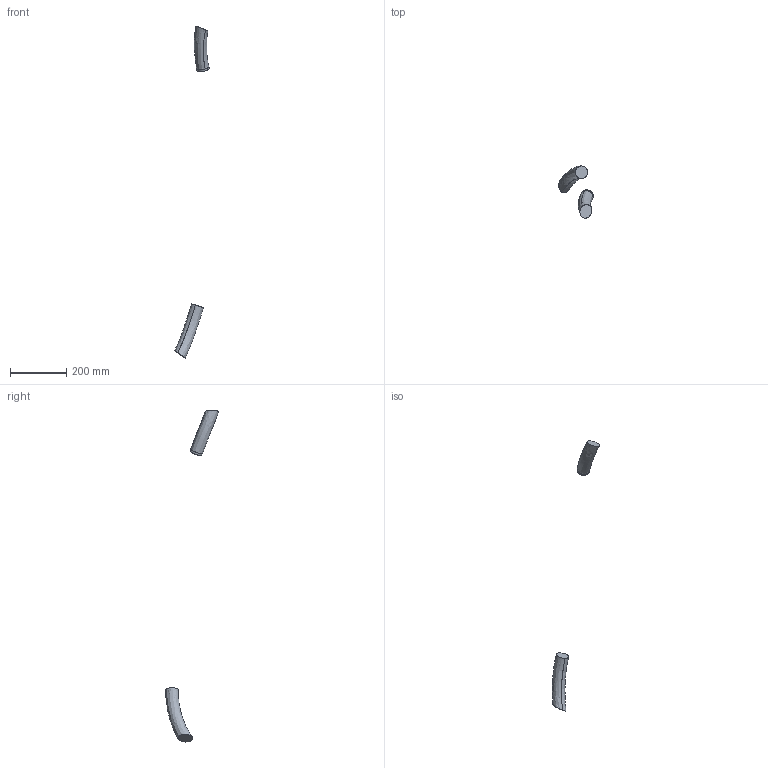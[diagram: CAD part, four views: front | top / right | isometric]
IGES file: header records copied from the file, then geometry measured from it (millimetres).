
Start section: SolidWorks IGES file using analytic representation for surfaces
Global section: file name: N:\DM\Robotics\SEROP_PROJ\Product Development\DevelopmentProjects\Manipulator_Modularity\04. Product Design\06. CAD\Amanda\6730S Simulation models\IRB6730S_150kg-400_OC_01_IGES_J\IRB6730S-ALL-OC_00_LINK02m_CABLE.igs; native system: SolidWorks 2024; preprocessor: SolidWorks 2024; author: SEJOHLUN; date: 251219.135732; units: millimetre
Bounding box: 122.96 x 187.58 x 1182.34 mm (x, y, z)
Surface area: 56035.4 mm2 (no closed solid volume)
Topology: 0 solids, 0 shells, 10 faces, 396 edges, 396 vertices
Faces by surface type: bspline 8, revolution 2
